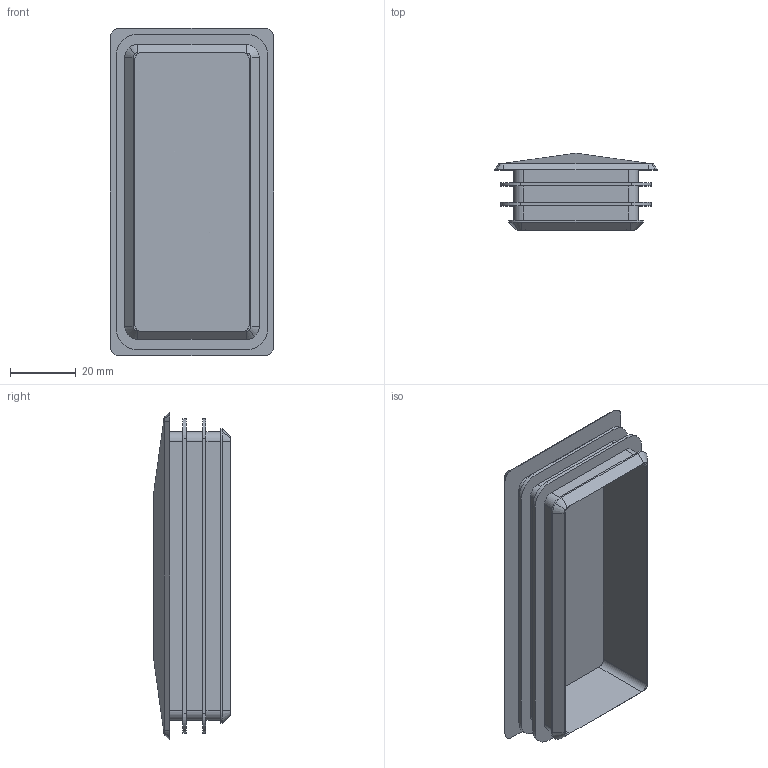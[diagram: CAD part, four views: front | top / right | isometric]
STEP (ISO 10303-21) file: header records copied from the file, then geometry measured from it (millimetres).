
FILE_DESCRIPTION(/* description */ (''),/* implementation_level */ '2;1');
FILE_NAME(/* name */ '\\Nas\db20\PR4-50100-H\DR_PR4-50100-H.stp',/* time_stamp */ '2021-02-01T10:25:50+09:00',/* author */ ('user'),/* organization */ (''),/* preprocessor_version */ 'ST-DEVELOPER v15.6',/* originating_system */ 'Autodesk Inventor 2015',/* authorisation */ '');
FILE_SCHEMA (('AUTOMOTIVE_DESIGN { 1 0 10303 214 3 1 1 }'));
Length unit declared in the file: millimetre
Products named in the file (1): DR_PR4-50100-H
Bounding box: 50 x 23.5 x 100 mm (x, y, z)
Volume: 23538.3 mm3; surface area: 23770.6 mm2
Topology: 1 solids, 1 shells, 95 faces, 237 edges, 150 vertices
Faces by surface type: plane 49, cylinder 32, bspline 10, cone 4
Entity records: 2979 total; most frequent: CARTESIAN_POINT 713, ORIENTED_EDGE 474, DIRECTION 449, EDGE_CURVE 237, VERTEX_POINT 150, AXIS2_PLACEMENT_3D 150, LINE 149, VECTOR 149
